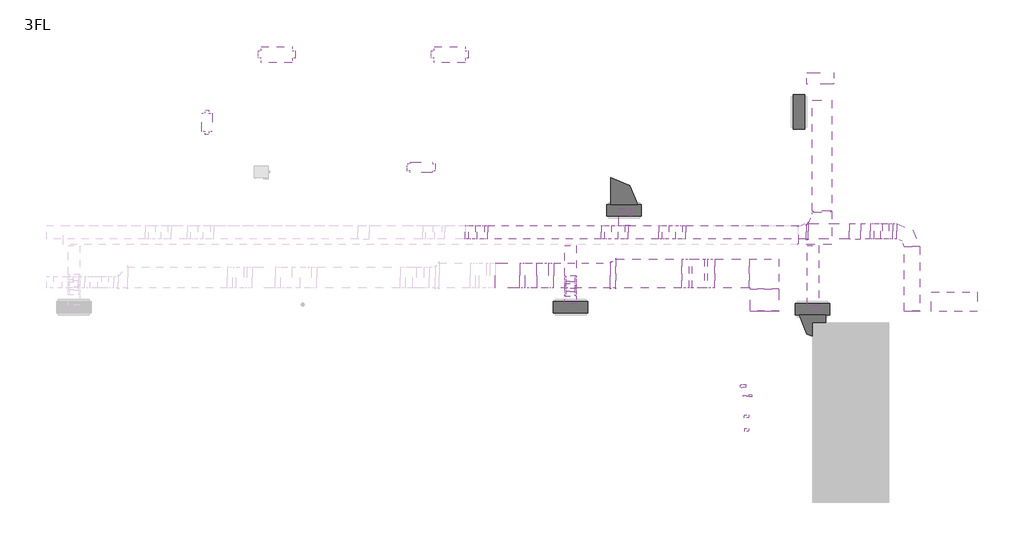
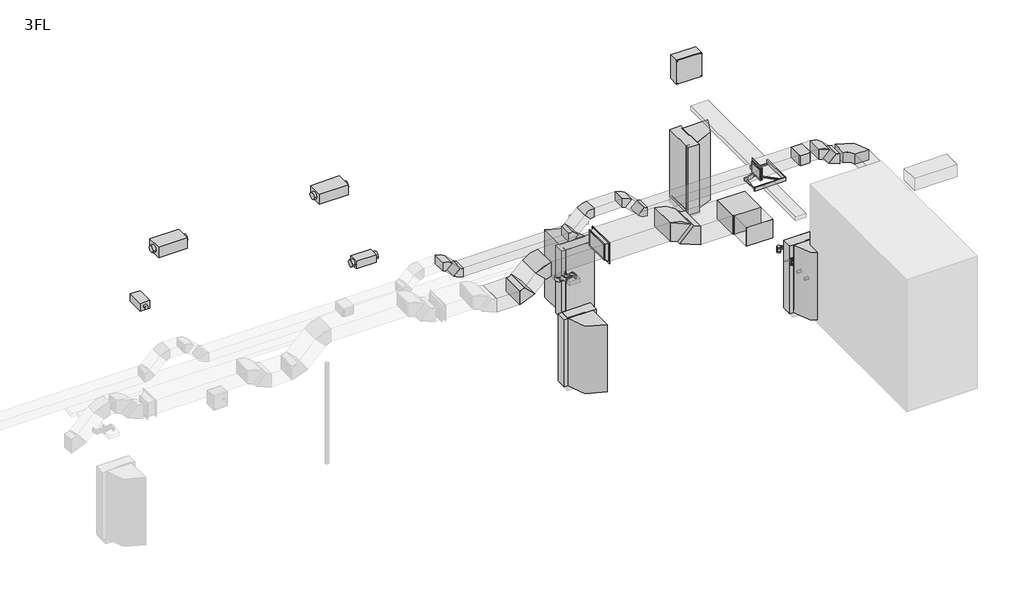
# One storey, part 2 of 2: 19 duct fittings, 19 duct segments, 6 cable carrier segments, 5 unitary equipment elements, 4 electric distribution boards, 3 cable carrier fittings, 3 pipe segments, 1 pipe fitting, 2 other elements.
"""IFC4 building model written with IfcOpenShell, lengths in millimetres."""

from ifc_helpers import new_model, si_unit, point, frame, frame_2d, origin, place, context, project, spatial, polyline, circle_curve, trimmed, segment, composite_curve, outline, extrude, transform, mapped, element, save
from components import electrical_fixtures_9befc5e6, cable_carrier_fitting_edf0bd9d, cable_carrier_fitting_9c4a5b13, cable_carrier_fitting_3f0ff01a, common_c334632e, common_aa00709b, common_bf29508c, common_0bd60039, common_1_0_w_7135a4aa, common_1_0_w_3d36b4d6, common_1_0_w_68f2167f, common_1_0_w_32d719c2, common_1_0_w_32f171b4, common_45_deg_f5eb5858, common_45_deg_ac8d2ae8, electric_distribution_board_7d68dc5e, common_e0ad3d5b, unitary_equipment_1_1_4_650m3_h_05f98e83, unitary_equipment_1_150m3_h_757a065e, unitary_equipment_1_300m3_h_c85a9461, unitary_equipment_12000m3_h_0bb0cf92, valve_cbaba786

model = new_model("IFC4")

# Units and contexts
model_context = context("Model", 3, world=origin())
ifc_project = project(units=[si_unit("LENGTHUNIT", "METRE", prefix="MILLI")], contexts=[model_context])

# Site, building, storey
site = spatial("IfcSite", under=ifc_project)
building = spatial("IfcBuilding", under=site)
storey = spatial("IfcBuildingStorey", under=building, Name="3FL", Elevation=8200.0)

# Proxy
placement = place(None, origin())
electrical_fixtures_shape = electrical_fixtures_9befc5e6(model_context)
element("IfcBuildingElementProxy", 1, Name="20206_プルボックス_大_強電用 : 幹線設備", ObjectType="20206_プルボックス_大_強電用 : 幹線設備", at=placement, inside=storey, context=model_context, shape_type="MappedRepresentation", body=[
    mapped(electrical_fixtures_shape, transform((27454.755715, 19270.1146486, 11345.0), x_axis=(1.0, 0.0, 0.0), y_axis=(0.0, 1.0, 0.0), z_axis=(0.0, 0.0, 1.0))),
])

# Cable carrier fittings
cable_carrier_fitting_shape = cable_carrier_fitting_edf0bd9d(model_context)
element("IfcCableCarrierFitting", 2, ObjectType="Common_はしご垂直内側曲げ : 03 強電_低圧", at=placement, inside=storey, context=model_context, shape_type="MappedRepresentation", body=[
    mapped(cable_carrier_fitting_shape, transform((20934.5974225, 13975.3867861, 10850.0), x_axis=(0.0, 0.7071067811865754, -0.7071067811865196), y_axis=(0.0, 0.7071067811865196, 0.7071067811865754), z_axis=(1.0, 0.0, 0.0))),
])
cable_carrier_fitting_2_shape = cable_carrier_fitting_9c4a5b13(model_context)
element("IfcCableCarrierFitting", 3, ObjectType="Common_はしご垂直外側曲げ : 03 強電_低圧", at=placement, inside=storey, context=model_context, shape_type="MappedRepresentation", body=[
    mapped(cable_carrier_fitting_2_shape, transform((20934.5974225, 13725.3867861, 11100.0), x_axis=(0.0, -0.7071067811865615, 0.7071067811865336), y_axis=(0.0, -0.7071067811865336, -0.7071067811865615), z_axis=(1.0, 0.0, 0.0))),
])
cable_carrier_fitting_3_shape = cable_carrier_fitting_3f0ff01a(model_context)
element("IfcCableCarrierFitting", 4, ObjectType="Common_L 型接合部、交差梁付き : 03 強電_低圧", at=placement, inside=storey, context=model_context, shape_type="MappedRepresentation", body=[
    mapped(cable_carrier_fitting_3_shape, transform((27500.3826289, 15180.0, 10850.0), x_axis=(1.0, 0.0, 0.0), y_axis=(0.0, 1.0, 0.0), z_axis=(0.0, 0.0, 1.0))),
])

# Cable carrier segments
element("IfcCableCarrierSegment", 5, ObjectType="03 強電_低圧", at=placement, inside=storey, context=model_context, shape_type="SweptSolid", body=[
    extrude(outline(polyline([(27750.3826289, 15810.0), (27250.3826289, 15810.0), (27250.3826289, 18700.0), (27750.3826289, 18700.0), (27750.3826289, 15810.0)])), frame((0.0, 0.0, 10800.0), z_axis=(0.0, 0.0, 1.0), x_axis=(1.0, 0.0, 0.0)), (0.0, 0.0, 1.0), 100.0),
])
element("IfcCableCarrierSegment", 6, ObjectType="03 強電_低圧", at=placement, inside=storey, context=model_context, shape_type="SweptSolid", body=[
    extrude(outline(polyline([(22201.5748089, 15870.0), (22501.5748089, 15870.0), (22501.5748089, 15430.0), (22201.5748089, 15430.0), (22201.5748089, 15870.0)])), frame((0.0, 0.0, 11050.0), z_axis=(0.0, 0.0, 1.0), x_axis=(1.0, 0.0, 0.0)), (0.0, 0.0, 1.0), 100.0),
])
element("IfcCableCarrierSegment", 7, ObjectType="03 強電_低圧", at=placement, inside=storey, context=model_context, shape_type="SweptSolid", body=[
    extrude(outline(polyline([(21084.5974225, 14113.3766848), (20784.5974225, 14113.3766848), (20784.5974225, 14910.0), (21084.5974225, 14910.0), (21084.5974225, 14113.3766848)])), frame((0.0, 0.0, 10800.0), z_axis=(0.0, 0.0, 1.0), x_axis=(1.0, 0.0, 0.0)), (0.0, 0.0, 1.0), 100.0),
])
element("IfcCableCarrierSegment", 8, ObjectType="03 強電_低圧", at=placement, inside=storey, context=model_context, shape_type="SweptSolid", body=[
    extrude(outline(polyline([(0.0, -300.0), (0.0, 0.0), (77.5735931, 0.0), (77.5735931, -300.0), (0.0, -300.0)])), frame((21084.5974225, 13842.4578539, 10912.2182541), z_axis=(0.0, 0.7071067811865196, 0.7071067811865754), x_axis=(0.0, -0.7071067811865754, 0.7071067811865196)), (0.0, 0.0, 1.0), 100.0),
])
element("IfcCableCarrierSegment", 9, ObjectType="03 強電_低圧", at=placement, inside=storey, context=model_context, shape_type="SweptSolid", body=[
    extrude(outline(polyline([(20784.5974225, 13587.3968874), (21084.5974225, 13587.3968874), (21084.5974225, 13391.7737247), (20784.5974225, 13391.7737247), (20784.5974225, 13587.3968874)])), frame((0.0, 0.0, 11050.0), z_axis=(0.0, 0.0, 1.0), x_axis=(1.0, 0.0, 0.0)), (0.0, 0.0, 1.0), 100.0),
])
element("IfcCableCarrierSegment", 10, ObjectType="03 強電_低圧", at=placement, inside=storey, context=model_context, shape_type="SweptSolid", body=[
    extrude(outline(polyline([(27111.6364041, 14905.0258745), (27411.6364041, 14905.0258745), (27411.6364041, 13345.0258745), (27111.6364041, 13345.0258745), (27111.6364041, 14905.0258745)])), frame((0.0, 0.0, 10799.1611111), z_axis=(0.0, 0.0, 1.0), x_axis=(1.0, 0.0, 0.0)), (0.0, 0.0, 1.0), 100.0),
])

# Duct fittings
common_shape = common_c334632e(model_context)
element("IfcDuctFitting", 11, ObjectType="071_角型ユニオン : Common", at=placement, inside=storey, context=model_context, shape_type="MappedRepresentation", body=[
    mapped(common_shape, transform((29850.0, 13188.0, 10800.0), x_axis=(0.0, -1.0, 0.0), y_axis=(1.0, 0.0, 0.0), z_axis=(0.0, 0.0, 1.0))),
])
common_2_shape = common_aa00709b(model_context)
element("IfcDuctFitting", 12, ObjectType="014_角形分割エルボ - 一重ベーン : Common", at=placement, inside=storey, context=model_context, shape_type="MappedRepresentation", body=[
    mapped(common_2_shape, transform((26000.0, 14175.0, 10925.0), x_axis=(0.0, 1.0, 0.0), y_axis=(-1.0, 0.0, 0.0), z_axis=(0.0, 0.0, 1.0))),
])
common_3_shape = common_bf29508c(model_context)
element("IfcDuctFitting", 13, ObjectType="071_角型ユニオン : Common", at=placement, inside=storey, context=model_context, shape_type="MappedRepresentation", body=[
    mapped(common_3_shape, transform((26000.0, 13188.0, 10925.0), x_axis=(0.0, 1.0, 0.0), y_axis=(-1.0, 0.0, 0.0), z_axis=(0.0, 0.0, 1.0))),
])
common_4_shape = common_0bd60039(model_context)
element("IfcDuctFitting", 14, ObjectType="022_角形片側分岐 : Common", at=placement, inside=storey, context=model_context, shape_type="MappedRepresentation", body=[
    mapped(common_4_shape, transform((28365.0336051, 15280.0, 11150.0), x_axis=(1.0, 0.0, 0.0), y_axis=(0.0, 1.0, 0.0), z_axis=(0.0, 0.0, 1.0))),
])
common_1_0_w_shape = common_1_0_w_7135a4aa(model_context)
element("IfcDuctFitting", 15, ObjectType="011_角型エルボ - 半径 : Common 1.0 W", at=placement, inside=storey, context=model_context, shape_type="MappedRepresentation", body=[
    mapped(common_1_0_w_shape, transform((19783.1994813, 14125.0, 10850.0), x_axis=(1.0, 0.0, 0.0), y_axis=(0.0, 0.0, 1.0), z_axis=(0.0, -1.0, 0.0))),
])
element("IfcDuctFitting", 16, ObjectType="011_角型エルボ - 半径 : Common 1.0 W", at=placement, inside=storey, context=model_context, shape_type="MappedRepresentation", body=[
    mapped(common_1_0_w_shape, transform((20333.1994813, 14125.0, 11400.0), x_axis=(0.7071067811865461, 0.0, 0.707106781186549), y_axis=(0.707106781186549, 0.0, -0.7071067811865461), z_axis=(0.0, 1.0, 0.0))),
])
common_1_0_w_2_shape = common_1_0_w_3d36b4d6(model_context)
element("IfcDuctFitting", 17, ObjectType="011_角型エルボ - 半径 : Common 1.0 W", at=placement, inside=storey, context=model_context, shape_type="MappedRepresentation", body=[
    mapped(common_1_0_w_2_shape, transform((29850.0, 15280.0, 10800.0), x_axis=(0.0, 1.0, 0.0), y_axis=(-1.0, 0.0, 0.0), z_axis=(0.0, 0.0, 1.0))),
])
common_1_0_w_3_shape = common_1_0_w_68f2167f(model_context)
element("IfcDuctFitting", 18, ObjectType="011_角型エルボ - 半径 : Common 1.0 W", at=placement, inside=storey, context=model_context, shape_type="MappedRepresentation", body=[
    mapped(common_1_0_w_3_shape, transform((23842.3513944, 15255.0, 11125.0), x_axis=(0.7071067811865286, 0.0, -0.7071067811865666), y_axis=(0.7071067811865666, 0.0, 0.7071067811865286), z_axis=(0.0, -1.0, 0.0))),
])
element("IfcDuctFitting", 19, ObjectType="011_角型エルボ - 半径 : Common 1.0 W", at=placement, inside=storey, context=model_context, shape_type="MappedRepresentation", body=[
    mapped(common_1_0_w_3_shape, transform((23342.3513944, 15255.0, 11625.0), x_axis=(-0.7071067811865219, 0.0, 0.7071067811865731), y_axis=(-0.7071067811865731, 0.0, -0.7071067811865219), z_axis=(0.0, -1.0, 0.0))),
])
element("IfcDuctFitting", 20, ObjectType="011_角型エルボ - 半径 : Common 1.0 W", at=placement, inside=storey, context=model_context, shape_type="MappedRepresentation", body=[
    mapped(common_1_0_w_3_shape, transform((22343.7038734, 15255.0, 11625.0), x_axis=(0.707106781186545, 0.0, 0.7071067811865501), y_axis=(0.7071067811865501, 0.0, -0.707106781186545), z_axis=(0.0, 1.0, 0.0))),
])
element("IfcDuctFitting", 21, ObjectType="011_角型エルボ - 半径 : Common 1.0 W", at=placement, inside=storey, context=model_context, shape_type="MappedRepresentation", body=[
    mapped(common_1_0_w_3_shape, transform((21843.7038734, 15255.0, 11125.0), x_axis=(-0.7071067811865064, 0.0, -0.7071067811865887), y_axis=(-0.7071067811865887, 0.0, 0.7071067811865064), z_axis=(0.0, 1.0, 0.0))),
])
element("IfcDuctFitting", 22, ObjectType="011_角型エルボ - 半径 : Common 1.0 W", at=placement, inside=storey, context=model_context, shape_type="MappedRepresentation", body=[
    mapped(common_1_0_w_3_shape, transform((18671.4466094, 15255.0, 11125.0), x_axis=(-1.0, 0.0, 0.0), y_axis=(0.0, 0.0, 1.0), z_axis=(0.0, 1.0, 0.0))),
])
element("IfcDuctFitting", 23, ObjectType="011_角型エルボ - 半径 : Common 1.0 W", at=placement, inside=storey, context=model_context, shape_type="MappedRepresentation", body=[
    mapped(common_1_0_w_3_shape, transform((18296.4466094, 15255.0, 11500.0), x_axis=(-0.707106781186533, 0.0, 0.707106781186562), y_axis=(-0.707106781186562, 0.0, -0.707106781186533), z_axis=(0.0, -1.0, 0.0))),
])
common_1_0_w_4_shape = common_1_0_w_32d719c2(model_context)
element("IfcDuctFitting", 24, ObjectType="011_角型エルボ - 半径 : Common 1.0 W", at=placement, inside=storey, context=model_context, shape_type="MappedRepresentation", body=[
    mapped(common_1_0_w_4_shape, transform((29229.0006699, 15280.0, 10800.0), x_axis=(-1.0, 0.0, 0.0), y_axis=(0.0, 0.0, 1.0), z_axis=(0.0, 1.0, 0.0))),
])
element("IfcDuctFitting", 25, ObjectType="011_角型エルボ - 半径 : Common 1.0 W", at=placement, inside=storey, context=model_context, shape_type="MappedRepresentation", body=[
    mapped(common_1_0_w_4_shape, transform((28879.0006699, 15280.0, 11150.0), x_axis=(1.0, 0.0, 0.0), y_axis=(0.0, 0.0, -1.0), z_axis=(0.0, 1.0, 0.0))),
])
common_1_0_w_5_shape = common_1_0_w_32f171b4(model_context)
element("IfcDuctFitting", 26, ObjectType="011_角型エルボ - 半径 : Common 1.0 W", at=placement, inside=storey, context=model_context, shape_type="MappedRepresentation", body=[
    mapped(common_1_0_w_5_shape, transform((24472.6046142, 14175.0, 10925.0), x_axis=(-1.0, 0.0, 0.0), y_axis=(0.0, 0.0, 1.0), z_axis=(0.0, 1.0, 0.0))),
])
element("IfcDuctFitting", 27, ObjectType="011_角型エルボ - 半径 : Common 1.0 W", at=placement, inside=storey, context=model_context, shape_type="MappedRepresentation", body=[
    mapped(common_1_0_w_5_shape, transform((24072.6046142, 14175.0, 11325.0), x_axis=(1.0, 0.0, 0.0), y_axis=(0.0, 0.0, -1.0), z_axis=(0.0, 1.0, 0.0))),
])
common_45_deg_shape = common_45_deg_f5eb5858(model_context)
element("IfcDuctFitting", 28, ObjectType="041_角型置換 - フランジ - 角度 : Common 45 deg", at=placement, inside=storey, context=model_context, shape_type="MappedRepresentation", body=[
    mapped(common_45_deg_shape, transform((27095.5281374, 15255.0, 11125.0), x_axis=(1.0, 0.0, 0.0), y_axis=(0.0, 1.0, 0.0), z_axis=(0.0, 0.0, 1.0))),
])
common_45_deg_2_shape = common_45_deg_ac8d2ae8(model_context)
element("IfcDuctFitting", 29, ObjectType="041_角型置換 - フランジ - 角度 : Common 45 deg", at=placement, inside=storey, context=model_context, shape_type="MappedRepresentation", body=[
    mapped(common_45_deg_2_shape, transform((21973.4058845, 14125.0, 11400.0), x_axis=(1.0, 0.0, 0.0), y_axis=(0.0, 1.0, 0.0), z_axis=(0.0, 0.0, 1.0))),
])

# Duct segments
element("IfcDuctSegment", 30, ObjectType="00_角タップ", at=placement, inside=storey, context=model_context, shape_type="SweptSolid", body=[
    extrude(outline(polyline([(24700.4220735, 13800.0), (24700.4220735, 14550.0), (25600.0, 14550.0), (25600.0, 13800.0), (24700.4220735, 13800.0)])), frame((0.0, 0.0, 10650.0), z_axis=(0.0, 0.0, 1.0), x_axis=(1.0, 0.0, 0.0)), (0.0, 0.0, 1.0), 550.0),
])
element("IfcDuctSegment", 31, ObjectType="00_角タップ", at=placement, inside=storey, context=model_context, shape_type="SweptSolid", body=[
    extrude(outline(polyline([(25625.0, 13775.0), (26375.0, 13775.0), (26375.0, 13191.0), (25625.0, 13191.0), (25625.0, 13775.0)])), frame((0.0, 0.0, 10650.0), z_axis=(0.0, 0.0, 1.0), x_axis=(1.0, 0.0, 0.0)), (0.0, 0.0, 1.0), 550.0),
])
element("IfcDuctSegment", 32, ObjectType="00_角タップ", at=placement, inside=storey, context=model_context, shape_type="SweptSolid", body=[
    extrude(outline(polyline([(23844.7871549, 14550.0), (23844.7871549, 13800.0), (22123.4058845, 13800.0), (22123.4058845, 14550.0), (23844.7871549, 14550.0)])), frame((0.0, 0.0, 11050.0), z_axis=(0.0, 0.0, 1.0), x_axis=(1.0, 0.0, 0.0)), (0.0, 0.0, 1.0), 550.0),
])
element("IfcDuctSegment", 33, ObjectType="00_角タップ", at=placement, inside=storey, context=model_context, shape_type="SweptSolid", body=[
    extrude(outline(polyline([(20498.8849062, 13800.0), (20498.8849062, 14450.0), (21973.4058845, 14450.0), (21973.4058845, 13800.0), (20498.8849062, 13800.0)])), frame((0.0, 0.0, 11200.0), z_axis=(0.0, 0.0, 1.0), x_axis=(1.0, 0.0, 0.0)), (0.0, 0.0, 1.0), 400.0),
])
element("IfcDuctSegment", 34, ObjectType="00_角タップ", at=placement, inside=storey, context=model_context, shape_type="SweptSolid", body=[
    extrude(outline(polyline([(19617.5140563, 14450.0), (19617.5140563, 13800.0), (18975.0, 13800.0), (18975.0, 14450.0), (19617.5140563, 14450.0)])), frame((0.0, 0.0, 10650.0), z_axis=(0.0, 0.0, 1.0), x_axis=(1.0, 0.0, 0.0)), (0.0, 0.0, 1.0), 400.0),
])
element("IfcDuctSegment", 35, ObjectType="00_角タップ", at=placement, inside=storey, context=model_context, shape_type="SweptSolid", body=[
    extrude(outline(polyline([(199.9999999, 706.6084381), (199.9999999, 56.6084381), (-200.0, 56.6084381), (-200.0, 706.6084381), (199.9999999, 706.6084381)])), frame((19900.3567688, 13743.3915619, 10967.1572875), z_axis=(0.7071067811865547, 0.0, 0.7071067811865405), x_axis=(0.7071067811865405, 0.0, -0.7071067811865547)), (0.0, 0.0, 1.0), 446.4466094),
])
element("IfcDuctSegment", 36, ObjectType="00_角タップ", at=placement, inside=storey, context=model_context, shape_type="SweptSolid", body=[
    extrude(outline(polyline([(23945.904785, 15080.0), (23945.904785, 15430.0), (27095.5281374, 15430.0), (27095.5281374, 15080.0), (23945.904785, 15080.0)])), frame((0.0, 0.0, 11000.0), z_axis=(0.0, 0.0, 1.0), x_axis=(1.0, 0.0, 0.0)), (0.0, 0.0, 1.0), 250.0),
])
element("IfcDuctSegment", 37, ObjectType="00_角タップ", at=placement, inside=storey, context=model_context, shape_type="SweptSolid", body=[
    extrude(outline(polyline([(0.0, -350.0), (0.0, 0.0), (499.9999999, 0.0), (499.9999999, -350.0), (0.0, -350.0)])), frame((23327.1863515, 15430.0, 11463.3883476), z_axis=(0.7071067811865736, 0.0, 0.7071067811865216), x_axis=(0.7071067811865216, 0.0, -0.7071067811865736)), (0.0, 0.0, 1.0), 250.0),
])
element("IfcDuctSegment", 38, ObjectType="00_角タップ", at=placement, inside=storey, context=model_context, shape_type="SweptSolid", body=[
    extrude(outline(polyline([(23238.7980038, 15430.0), (23238.7980038, 15080.0), (22447.257264, 15080.0), (22447.257264, 15430.0), (23238.7980038, 15430.0)])), frame((0.0, 0.0, 11500.0), z_axis=(0.0, 0.0, 1.0), x_axis=(1.0, 0.0, 0.0)), (0.0, 0.0, 1.0), 250.0),
])
element("IfcDuctSegment", 39, ObjectType="00_角タップ", at=placement, inside=storey, context=model_context, shape_type="SweptSolid", body=[
    extrude(outline(polyline([(125.0, -390.0581317), (-125.0, -390.0581317), (-125.0, -40.0581317), (125.0, -40.0581317), (125.0, -390.0581317)])), frame((21916.9271781, 15470.0581317, 11198.2233047), z_axis=(0.7071067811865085, 0.0, 0.7071067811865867), x_axis=(0.7071067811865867, 0.0, -0.7071067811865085)), (0.0, 0.0, 1.0), 500.0),
])
element("IfcDuctSegment", 40, ObjectType="00_角タップ", at=placement, inside=storey, context=model_context, shape_type="SweptSolid", body=[
    extrude(outline(polyline([(18775.0, 15080.0), (18775.0, 15430.0), (21740.1504828, 15430.0), (21740.1504828, 15080.0), (18775.0, 15080.0)])), frame((0.0, 0.0, 11000.0), z_axis=(0.0, 0.0, 1.0), x_axis=(1.0, 0.0, 0.0)), (0.0, 0.0, 1.0), 250.0),
])
element("IfcDuctSegment", 41, ObjectType="00_角ティー", at=placement, inside=storey, context=model_context, shape_type="SweptSolid", body=[
    extrude(outline(polyline([(28215.0336051, 15480.0), (28215.0336051, 15080.0), (27145.5281374, 15080.0), (27145.5281374, 15480.0), (28215.0336051, 15480.0)])), frame((0.0, 0.0, 11000.0), z_axis=(0.0, 0.0, 1.0), x_axis=(1.0, 0.0, 0.0)), (0.0, 0.0, 1.0), 300.0),
])
element("IfcDuctSegment", 42, ObjectType="00_角タップ", at=placement, inside=storey, context=model_context, shape_type="SweptSolid", body=[
    extrude(outline(polyline([(29650.0, 14880.0), (30050.0, 14880.0), (30050.0, 13191.0), (29650.0, 13191.0), (29650.0, 14880.0)])), frame((0.0, 0.0, 10650.0), z_axis=(0.0, 0.0, 1.0), x_axis=(1.0, 0.0, 0.0)), (0.0, 0.0, 1.0), 300.0),
])
element("IfcDuctSegment", 43, ObjectType="00_角タップ", at=placement, inside=storey, context=model_context, shape_type="SweptSolid", body=[
    extrude(outline(polyline([(0.0, -750.0), (0.0, 0.0), (110.0505063, 0.0), (110.0505063, -750.0), (0.0, -750.0)])), frame((24117.058979, 13800.0, 10891.6369055), z_axis=(0.7071067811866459, 0.0, 0.7071067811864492), x_axis=(-0.7071067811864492, 0.0, 0.7071067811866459)), (0.0, 0.0, 1.0), 550.0),
])
element("IfcDuctSegment", 44, ObjectType="00_角ティー", at=placement, inside=storey, context=model_context, shape_type="SweptSolid", body=[
    extrude(outline(polyline([(28515.0336051, 15080.0), (28515.0336051, 15480.0), (28754.7366012, 15480.0), (28754.7366012, 15080.0), (28515.0336051, 15080.0)])), frame((0.0, 0.0, 11000.0), z_axis=(0.0, 0.0, 1.0), x_axis=(1.0, 0.0, 0.0)), (0.0, 0.0, 1.0), 300.0),
])
element("IfcDuctSegment", 45, ObjectType="00_角ティー", at=placement, inside=storey, context=model_context, shape_type="SweptSolid", body=[
    extrude(outline(polyline([(0.0, -400.0), (0.0, 0.0), (246.4466095, 0.0), (246.4466095, -400.0), (0.0, -400.0)])), frame((29035.0666871, 15080.0, 10781.8019485), z_axis=(0.707106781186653, 0.0, 0.7071067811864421), x_axis=(-0.7071067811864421, 0.0, 0.707106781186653)), (0.0, 0.0, 1.0), 300.0),
])
element("IfcDuctSegment", 46, ObjectType="00_角タップ", at=placement, inside=storey, context=model_context, shape_type="SweptSolid", body=[
    extrude(outline(polyline([(29450.0, 15480.0), (29450.0, 15080.0), (29353.2647386, 15080.0), (29353.2647386, 15480.0), (29450.0, 15480.0)])), frame((0.0, 0.0, 10650.0), z_axis=(0.0, 0.0, 1.0), x_axis=(1.0, 0.0, 0.0)), (0.0, 0.0, 1.0), 300.0),
])
element("IfcDuctSegment", 47, ObjectType="00_角タップ", at=placement, inside=storey, context=model_context, shape_type="SweptSolid", body=[
    extrude(outline(polyline([(0.0, -350.0), (0.0, 0.0), (323.2233046, 0.0), (323.2233046, -350.0), (0.0, -350.0)])), frame((18509.8349571, 15080.0, 11109.8349571), z_axis=(0.7071067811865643, 0.0, 0.7071067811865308), x_axis=(-0.7071067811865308, 0.0, 0.7071067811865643)), (0.0, 0.0, 1.0), 250.0),
])
element("IfcDuctSegment", 48, ObjectType="00_角タップ", at=placement, inside=storey, context=model_context, shape_type="SweptSolid", body=[
    extrude(outline(polyline([(30357.8322542, 13691.5012803), (31557.8322542, 13691.5012803), (31557.8322542, 13185.0), (30357.8322542, 13185.0), (30357.8322542, 13691.5012803)])), frame((0.0, 0.0, 10650.0), z_axis=(0.0, 0.0, 1.0), x_axis=(1.0, 0.0, 0.0)), (0.0, 0.0, 1.0), 350.0),
])

# Electric distribution boards
electric_distribution_board_shape = electric_distribution_board_7d68dc5e(model_context)
element("IfcElectricDistributionBoard", 49, ObjectType="20800_分電盤 : 右扉", at=placement, inside=storey, context=model_context, shape_type="MappedRepresentation", body=[
    mapped(electric_distribution_board_shape, transform((26700.0, 18391.8647061, 8200.0), x_axis=(0.0, 1.0, 0.0), y_axis=(-1.0, 0.0, 0.0), z_axis=(0.0, 0.0, 1.0))),
])
element("IfcElectricDistributionBoard", 50, ObjectType="21000_OA盤 : 右扉", at=placement, inside=storey, context=model_context, shape_type="MappedRepresentation", body=[
    mapped(electric_distribution_board_shape, transform((22340.0, 15628.4000135, 8200.0), x_axis=(-1.0, 0.0, 0.0), y_axis=(0.0, -1.0, 0.0), z_axis=(0.0, 0.0, 1.0))),
])
element("IfcElectricDistributionBoard", 51, ObjectType="21300_制御盤 : 右扉", at=placement, inside=storey, context=model_context, shape_type="MappedRepresentation", body=[
    mapped(electric_distribution_board_shape, transform((27251.5347452, 13439.3406888, 8200.0), x_axis=(1.0, 0.0, 0.0), y_axis=(0.0, 1.0, 0.0), z_axis=(0.0, 0.0, 1.0))),
])
element("IfcElectricDistributionBoard", 52, ObjectType="21000_OA盤 : 右扉", at=placement, inside=storey, context=model_context, shape_type="MappedRepresentation", body=[
    mapped(electric_distribution_board_shape, transform((20943.221875, 13490.0, 8200.0), x_axis=(1.0, 0.0, 0.0), y_axis=(0.0, 1.0, 0.0), z_axis=(0.0, 0.0, 1.0))),
])

# Pipe fitting
common_5_shape = common_e0ad3d5b(model_context)
element("IfcPipeFitting", 53, ObjectType="021_径違い90° 大曲がり Y : Common", at=placement, inside=storey, context=model_context, shape_type="MappedRepresentation", body=[
    mapped(common_5_shape, transform((25411.7799665, 11233.0325009, 11850.0), x_axis=(0.0, 0.0, 1.0), y_axis=(-1.0, 0.0, 0.0), z_axis=(0.0, -1.0, 0.0))),
])

# Pipe segments
element("IfcPipeSegment", 54, ObjectType="00_供給", at=placement, inside=storey, context=model_context, shape_type="SweptSolid", body=[
    extrude(outline(composite_curve([segment(trimmed(circle_curve(frame_2d((10093.0325009, 11600.0)), 38.15), [point((10054.8825009, 11600.0))], [point((10093.0325009, 11638.15))], False, "CARTESIAN"), True, "CONTINUOUS"), segment(trimmed(circle_curve(frame_2d((10093.0325009, 11600.0)), 38.15), [point((10093.0325009, 11638.15))], [point((10131.1825009, 11600.0))], False, "CARTESIAN"), True, "CONTINUOUS"), segment(trimmed(circle_curve(frame_2d((10093.0325009, 11600.0)), 38.15), [point((10131.1825009, 11600.0))], [point((10093.0325009, 11561.85))], False, "CARTESIAN"), True, "CONTINUOUS"), segment(trimmed(circle_curve(frame_2d((10093.0325009, 11600.0)), 38.15), [point((10093.0325009, 11561.85))], [point((10054.8825009, 11600.0))], False, "CARTESIAN"), True, "CONTINUOUS")], self_intersect=False)), frame((25489.917665, 0.0, 0.0), z_axis=(1.0, 0.0, 0.0), x_axis=(0.0, 1.0, 0.0)), (0.0, 0.0, 1.0), 99.082335),
])
element("IfcPipeSegment", 55, ObjectType="00_供給", at=placement, inside=storey, context=model_context, shape_type="SweptSolid", body=[
    extrude(outline(composite_curve([segment(trimmed(circle_curve(frame_2d((10443.0325009, 11600.0)), 38.15), [point((10404.8825009, 11600.0))], [point((10443.0325009, 11638.15))], False, "CARTESIAN"), True, "CONTINUOUS"), segment(trimmed(circle_curve(frame_2d((10443.0325009, 11600.0)), 38.15), [point((10443.0325009, 11638.15))], [point((10481.1825009, 11600.0))], False, "CARTESIAN"), True, "CONTINUOUS"), segment(trimmed(circle_curve(frame_2d((10443.0325009, 11600.0)), 38.15), [point((10481.1825009, 11600.0))], [point((10443.0325009, 11561.85))], False, "CARTESIAN"), True, "CONTINUOUS"), segment(trimmed(circle_curve(frame_2d((10443.0325009, 11600.0)), 38.15), [point((10443.0325009, 11561.85))], [point((10404.8825009, 11600.0))], False, "CARTESIAN"), True, "CONTINUOUS")], self_intersect=False)), frame((25477.5087141, 0.0, 0.0), z_axis=(1.0, 0.0, 0.0), x_axis=(0.0, 1.0, 0.0)), (0.0, 0.0, 1.0), 111.4912859),
])
element("IfcPipeSegment", 56, ObjectType="00_供給", at=placement, inside=storey, context=model_context, shape_type="SweptSolid", body=[
    extrude(outline(composite_curve([segment(trimmed(circle_curve(frame_2d((10983.0325009, 11600.0)), 13.6), [point((10969.4325009, 11600.0))], [point((10983.0325009, 11613.6))], False, "CARTESIAN"), True, "CONTINUOUS"), segment(trimmed(circle_curve(frame_2d((10983.0325009, 11600.0)), 13.6), [point((10983.0325009, 11613.6))], [point((10996.6325009, 11600.0))], False, "CARTESIAN"), True, "CONTINUOUS"), segment(trimmed(circle_curve(frame_2d((10983.0325009, 11600.0)), 13.6), [point((10996.6325009, 11600.0))], [point((10983.0325009, 11586.4))], False, "CARTESIAN"), True, "CONTINUOUS"), segment(trimmed(circle_curve(frame_2d((10983.0325009, 11600.0)), 13.6), [point((10983.0325009, 11586.4))], [point((10969.4325009, 11600.0))], False, "CARTESIAN"), True, "CONTINUOUS")], self_intersect=False)), frame((25451.7799665, 0.0, 0.0), z_axis=(1.0, 0.0, 0.0), x_axis=(0.0, 1.0, 0.0)), (0.0, 0.0, 1.0), 145.7200335),
])

# Unitary equipment
unitary_equipment_1_1_4_650m3_h_shape = unitary_equipment_1_1_4_650m3_h_05f98e83(model_context)
element("IfcUnitaryEquipment", 57, ObjectType="11030_FAN_消音ボックス付送風機 : #1 1/4_650m3/h", at=placement, inside=storey, context=model_context, shape_type="MappedRepresentation", body=[
    mapped(unitary_equipment_1_1_4_650m3_h_shape, transform((17784.6408627, 19891.7502692, 11000.0), x_axis=(-1.0, 0.0, 0.0), y_axis=(0.0, -1.0, 0.0), z_axis=(0.0, 0.0, 1.0))),
])
element("IfcUnitaryEquipment", 58, ObjectType="11030_FAN_消音ボックス付送風機 : #1 1/4_800m3/h", at=placement, inside=storey, context=model_context, shape_type="MappedRepresentation", body=[
    mapped(unitary_equipment_1_1_4_650m3_h_shape, transform((13270.0, 19891.7502692, 11000.0), x_axis=(-1.0, 0.0, 0.0), y_axis=(0.0, -1.0, 0.0), z_axis=(0.0, 0.0, 1.0))),
])
unitary_equipment_1_150m3_h_shape = unitary_equipment_1_150m3_h_757a065e(model_context)
element("IfcUnitaryEquipment", 59, ObjectType="11030_FAN_消音ボックス付送風機 : #1_150m3/h", at=placement, inside=storey, context=model_context, shape_type="MappedRepresentation", body=[
    mapped(unitary_equipment_1_150m3_h_shape, transform((11450.0, 18124.6446609, 11000.0), x_axis=(0.0, -1.0, 0.0), y_axis=(1.0, 0.0, 0.0), z_axis=(0.0, 0.0, 1.0))),
])
unitary_equipment_1_300m3_h_shape = unitary_equipment_1_300m3_h_c85a9461(model_context)
element("IfcUnitaryEquipment", 60, ObjectType="11030_FAN_消音ボックス付送風機 : #1_300m3/h", at=placement, inside=storey, context=model_context, shape_type="MappedRepresentation", body=[
    mapped(unitary_equipment_1_300m3_h_shape, transform((17044.0, 16947.0435314, 11000.0), x_axis=(-1.0, 0.0, 0.0), y_axis=(0.0, -1.0, 0.0), z_axis=(0.0, 0.0, 1.0))),
])
unitary_equipment_12000m3_h_shape = unitary_equipment_12000m3_h_0bb0cf92(model_context)
element("IfcUnitaryEquipment", 61, ObjectType="07020_ACC_コンパクト形空調機_全熱交付 : 12000m3/h", at=placement, inside=storey, context=model_context, shape_type="MappedRepresentation", body=[
    mapped(unitary_equipment_12000m3_h_shape, transform((28500.0, 10740.0, 8200.0), x_axis=(0.0, -1.0, 0.0), y_axis=(1.0, 0.0, 0.0), z_axis=(0.0, 0.0, 1.0))),
])

# Valve
valve_shape = valve_cbaba786(model_context)
element("IfcValve", 62, ObjectType="C0100_GV_仕切弁 : GV_仕切弁", at=placement, inside=storey, context=model_context, shape_type="MappedRepresentation", body=[
    mapped(valve_shape, transform((25630.0, 10983.0325009, 11600.0), x_axis=(-1.0, 0.0, 0.0), y_axis=(0.0, 1.0, 0.0), z_axis=(0.0, 0.0, -1.0))),
])

save(model, "model.ifc")
